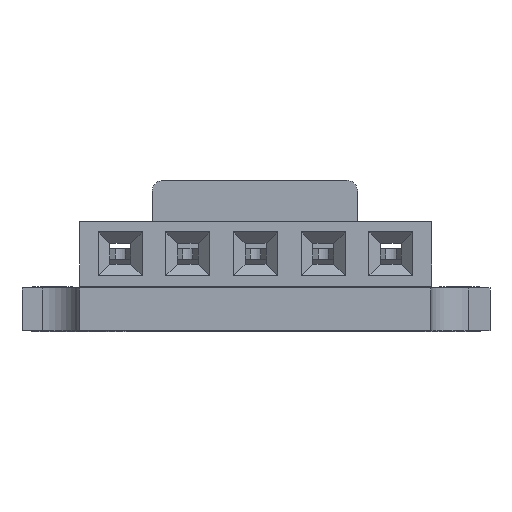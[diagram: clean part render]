
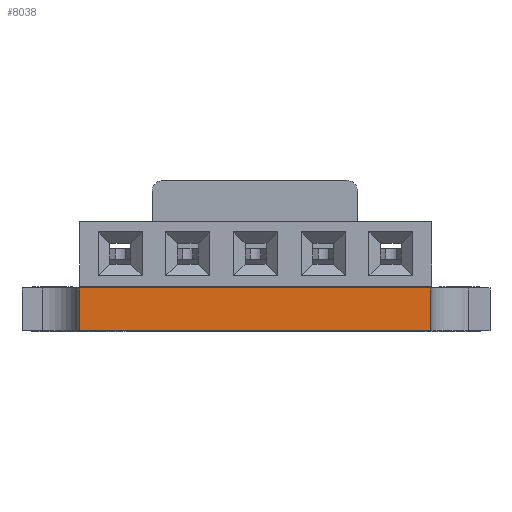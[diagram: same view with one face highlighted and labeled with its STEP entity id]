
A CAD part, front view. The second image highlights one B-rep face of the part: STEP entity #8038.
In plain terms, the highlighted planar face has unit normal (0, -1, 0).
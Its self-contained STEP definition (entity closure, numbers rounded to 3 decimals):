
#8038 = ADVANCED_FACE ( 'NONE', ( #100417 ), #80345, .T. ) ;
#11872 = CARTESIAN_POINT ( 'NONE',  ( -21.4, 12.4, -1.6 ) ) ;
#11883 = VECTOR ( 'NONE', #69725, 1000. ) ;
#17126 = DIRECTION ( 'NONE',  ( 0., 0., -1. ) ) ;
#24263 = CARTESIAN_POINT ( 'NONE',  ( -8.216, 12.4, 0. ) ) ;
#27075 = DIRECTION ( 'NONE',  ( 0., -1., 0. ) ) ;
#29069 = CARTESIAN_POINT ( 'NONE',  ( -21.4, 12.4, -1.6 ) ) ;
#31980 = VECTOR ( 'NONE', #60433, 1000. ) ;
#36351 = LINE ( 'NONE', #116437, #61495 ) ;
#39121 = ORIENTED_EDGE ( 'NONE', *, *, #128854, .T. ) ;
#54682 = EDGE_CURVE ( 'NONE', #104608, #129975, #60275, .T. ) ;
#55759 = VECTOR ( 'NONE', #68989, 1000. ) ;
#56416 = EDGE_CURVE ( 'NONE', #80692, #69526, #59789, .T. ) ;
#59377 = CARTESIAN_POINT ( 'NONE',  ( -21.4, 12.4, 0. ) ) ;
#59789 = LINE ( 'NONE', #11872, #31980 ) ;
#60137 = EDGE_CURVE ( 'NONE', #80692, #104608, #120491, .T. ) ;
#60275 = LINE ( 'NONE', #102307, #55759 ) ;
#60433 = DIRECTION ( 'NONE',  ( 1., 0., 0. ) ) ;
#61495 = VECTOR ( 'NONE', #85714, 1000. ) ;
#68989 = DIRECTION ( 'NONE',  ( 1., 0., 0. ) ) ;
#69526 = VERTEX_POINT ( 'NONE', #73728 ) ;
#69725 = DIRECTION ( 'NONE',  ( 0., 0., 1. ) ) ;
#70319 = CARTESIAN_POINT ( 'NONE',  ( -21.4, 12.4, -1.6 ) ) ;
#73728 = CARTESIAN_POINT ( 'NONE',  ( -8.216, 12.4, -1.6 ) ) ;
#77782 = ORIENTED_EDGE ( 'NONE', *, *, #54682, .F. ) ;
#78721 = ORIENTED_EDGE ( 'NONE', *, *, #60137, .F. ) ;
#80345 = PLANE ( 'NONE',  #119909 ) ;
#80692 = VERTEX_POINT ( 'NONE', #94697 ) ;
#85714 = DIRECTION ( 'NONE',  ( 0., 0., 1. ) ) ;
#87327 = EDGE_LOOP ( 'NONE', ( #77782, #78721, #89979, #39121 ) ) ;
#89979 = ORIENTED_EDGE ( 'NONE', *, *, #56416, .T. ) ;
#94697 = CARTESIAN_POINT ( 'NONE',  ( -21.4, 12.4, -1.6 ) ) ;
#100417 = FACE_OUTER_BOUND ( 'NONE', #87327, .T. ) ;
#102307 = CARTESIAN_POINT ( 'NONE',  ( -21.4, 12.4, 0. ) ) ;
#104608 = VERTEX_POINT ( 'NONE', #59377 ) ;
#116437 = CARTESIAN_POINT ( 'NONE',  ( -8.216, 12.4, -1.6 ) ) ;
#119909 = AXIS2_PLACEMENT_3D ( 'NONE', #70319, #27075, #17126 ) ;
#120491 = LINE ( 'NONE', #29069, #11883 ) ;
#128854 = EDGE_CURVE ( 'NONE', #69526, #129975, #36351, .T. ) ;
#129975 = VERTEX_POINT ( 'NONE', #24263 ) ;
